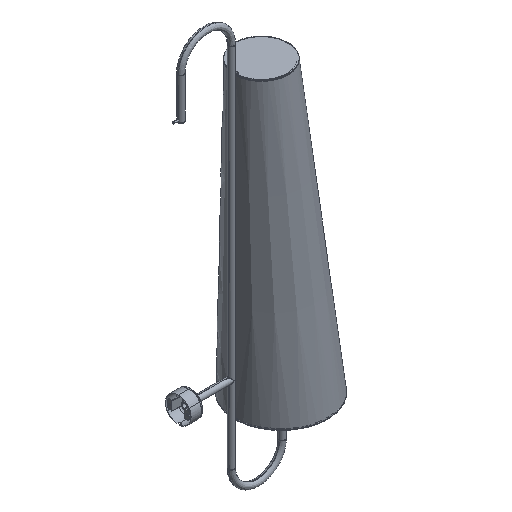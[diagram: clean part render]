
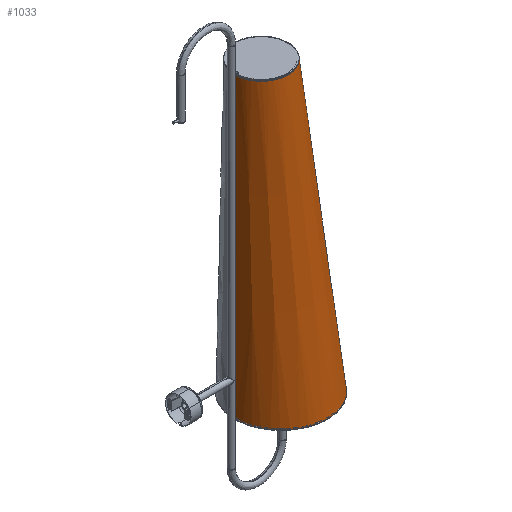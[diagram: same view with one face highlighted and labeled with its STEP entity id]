
A CAD part, isometric view. The second image highlights one B-rep face of the part: STEP entity #1033.
In plain terms, the highlighted free-form (B-spline) face has degree [3, 2] with [4, 5] control points.
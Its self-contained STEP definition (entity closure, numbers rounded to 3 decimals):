
#1033=ADVANCED_FACE('',(#1557),#7364,.T.);
#1557=FACE_OUTER_BOUND('',#2081,.T.);
#2081=EDGE_LOOP('',(#2647,#2648,#2649,#2650));
#2647=ORIENTED_EDGE('',*,*,#4971,.T.);
#2648=ORIENTED_EDGE('',*,*,#4966,.T.);
#2649=ORIENTED_EDGE('',*,*,#4967,.T.);
#2650=ORIENTED_EDGE('',*,*,#4969,.F.);
#4966=EDGE_CURVE('',#6689,#6690,#6134,.T.);
#4967=EDGE_CURVE('',#6690,#6692,#6135,.T.);
#4969=EDGE_CURVE('',#6691,#6692,#6137,.T.);
#4971=EDGE_CURVE('',#6691,#6689,#6139,.T.);
#6134=(
BOUNDED_CURVE()
B_SPLINE_CURVE(3,(#8984,#8985,#8986,#8987),.UNSPECIFIED.,.F.,.F.)
B_SPLINE_CURVE_WITH_KNOTS((4,4),(0.,705.002),.UNSPECIFIED.)
CURVE()
GEOMETRIC_REPRESENTATION_ITEM()
RATIONAL_B_SPLINE_CURVE((1.,1.,1.,1.))
REPRESENTATION_ITEM('')
);
#6135=(
BOUNDED_CURVE()
B_SPLINE_CURVE(2,(#8988,#8989,#8990,#8991,#8992),.UNSPECIFIED.,.F.,.F.)
B_SPLINE_CURVE_WITH_KNOTS((3,2,3),(-864.846,-648.635,
-432.423),.UNSPECIFIED.)
CURVE()
GEOMETRIC_REPRESENTATION_ITEM()
RATIONAL_B_SPLINE_CURVE((1.,0.707,1.,0.707,1.))
REPRESENTATION_ITEM('')
);
#6137=(
BOUNDED_CURVE()
B_SPLINE_CURVE(3,(#8998,#8999,#9000,#9001),.UNSPECIFIED.,.F.,.F.)
B_SPLINE_CURVE_WITH_KNOTS((4,4),(0.,705.002),.UNSPECIFIED.)
CURVE()
GEOMETRIC_REPRESENTATION_ITEM()
RATIONAL_B_SPLINE_CURVE((1.,1.,1.,1.))
REPRESENTATION_ITEM('')
);
#6139=(
BOUNDED_CURVE()
B_SPLINE_CURVE(2,(#9007,#9008,#9009,#9010,#9011),.UNSPECIFIED.,.F.,.F.)
B_SPLINE_CURVE_WITH_KNOTS((3,2,3),(432.423,648.635,864.846),
 .UNSPECIFIED.)
CURVE()
GEOMETRIC_REPRESENTATION_ITEM()
RATIONAL_B_SPLINE_CURVE((1.,0.707,1.,0.707,1.))
REPRESENTATION_ITEM('')
);
#6689=VERTEX_POINT('',#8980);
#6690=VERTEX_POINT('',#8981);
#6691=VERTEX_POINT('',#8982);
#6692=VERTEX_POINT('',#8983);
#7364=(
BOUNDED_SURFACE()
B_SPLINE_SURFACE(3,2,((#8960,#8961,#8962,#8963,#8964),(#8965,#8966,#8967,
#8968,#8969),(#8970,#8971,#8972,#8973,#8974),(#8975,#8976,#8977,#8978,#8979)),
 .UNSPECIFIED.,.F.,.F.,.F.)
B_SPLINE_SURFACE_WITH_KNOTS((4,4),(3,2,3),(0.,705.002),(-864.846,
-648.635,-432.423),.UNSPECIFIED.)
GEOMETRIC_REPRESENTATION_ITEM()
RATIONAL_B_SPLINE_SURFACE(((1.,0.707,1.,0.707,1.),
(1.,0.707,1.,0.707,1.),(1.,0.707,1.,
0.707,1.),(1.,0.707,1.,0.707,1.)))
REPRESENTATION_ITEM('')
SURFACE()
);
#8960=CARTESIAN_POINT('',(-1308.953,-5.178,658.936));
#8961=CARTESIAN_POINT('',(-1308.953,-113.284,658.936));
#8962=CARTESIAN_POINT('',(-1417.059,-113.284,658.936));
#8963=CARTESIAN_POINT('',(-1525.165,-113.284,658.936));
#8964=CARTESIAN_POINT('',(-1525.165,-5.178,658.936));
#8965=CARTESIAN_POINT('',(-1339.513,-5.178,891.439));
#8966=CARTESIAN_POINT('',(-1339.514,-98.003,891.439));
#8967=CARTESIAN_POINT('',(-1432.339,-98.003,891.439));
#8968=CARTESIAN_POINT('',(-1525.165,-98.003,891.439));
#8969=CARTESIAN_POINT('',(-1525.165,-5.177,891.439));
#8970=CARTESIAN_POINT('',(-1370.074,-5.177,1123.943));
#8971=CARTESIAN_POINT('',(-1370.074,-82.723,1123.943));
#8972=CARTESIAN_POINT('',(-1447.62,-82.722,1123.943));
#8973=CARTESIAN_POINT('',(-1525.165,-82.722,1123.943));
#8974=CARTESIAN_POINT('',(-1525.165,-5.176,1123.943));
#8975=CARTESIAN_POINT('',(-1400.634,-5.177,1356.446));
#8976=CARTESIAN_POINT('',(-1400.635,-67.442,1356.446));
#8977=CARTESIAN_POINT('',(-1462.9,-67.442,1356.446));
#8978=CARTESIAN_POINT('',(-1525.166,-67.441,1356.446));
#8979=CARTESIAN_POINT('',(-1525.165,-5.175,1356.446));
#8980=CARTESIAN_POINT('',(-1308.953,-5.178,658.936));
#8981=CARTESIAN_POINT('',(-1400.634,-5.177,1356.446));
#8982=CARTESIAN_POINT('',(-1525.165,-5.178,658.936));
#8983=CARTESIAN_POINT('',(-1525.165,-5.175,1356.446));
#8984=CARTESIAN_POINT('',(-1308.953,-5.178,658.936));
#8985=CARTESIAN_POINT('',(-1339.513,-5.178,891.439));
#8986=CARTESIAN_POINT('',(-1370.074,-5.177,1123.943));
#8987=CARTESIAN_POINT('',(-1400.634,-5.177,1356.446));
#8988=CARTESIAN_POINT('',(-1400.634,-5.177,1356.446));
#8989=CARTESIAN_POINT('',(-1400.635,-67.442,1356.446));
#8990=CARTESIAN_POINT('',(-1462.9,-67.442,1356.446));
#8991=CARTESIAN_POINT('',(-1525.166,-67.441,1356.446));
#8992=CARTESIAN_POINT('',(-1525.165,-5.175,1356.446));
#8998=CARTESIAN_POINT('',(-1525.165,-5.178,658.936));
#8999=CARTESIAN_POINT('',(-1525.165,-5.177,891.439));
#9000=CARTESIAN_POINT('',(-1525.165,-5.176,1123.943));
#9001=CARTESIAN_POINT('',(-1525.165,-5.175,1356.446));
#9007=CARTESIAN_POINT('',(-1525.165,-5.178,658.936));
#9008=CARTESIAN_POINT('',(-1525.165,-113.284,658.936));
#9009=CARTESIAN_POINT('',(-1417.059,-113.284,658.936));
#9010=CARTESIAN_POINT('',(-1308.953,-113.284,658.936));
#9011=CARTESIAN_POINT('',(-1308.953,-5.178,658.936));
